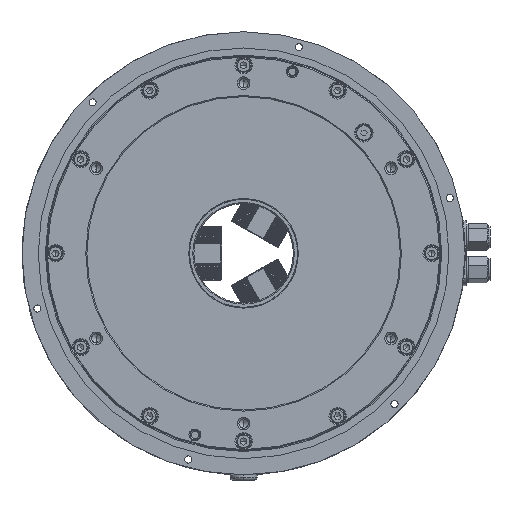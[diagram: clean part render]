
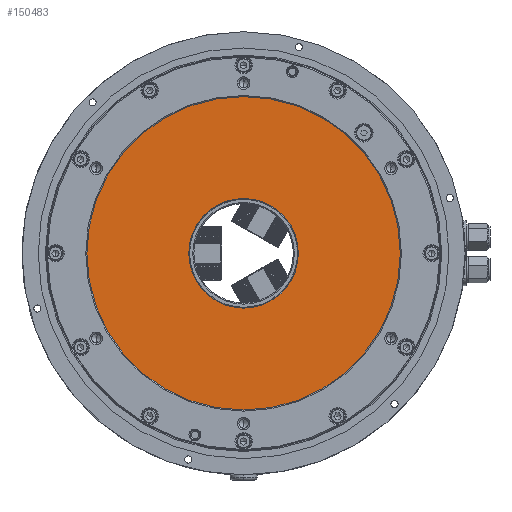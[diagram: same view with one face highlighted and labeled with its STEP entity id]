
A CAD part, left-side view. The second image highlights one B-rep face of the part: STEP entity #150483.
In plain terms, the highlighted planar face has unit normal (-1, 0, 0).
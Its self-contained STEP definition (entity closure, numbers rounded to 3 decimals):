
#1626 = CIRCLE ( 'NONE', #36420, 145. ) ;
#4254 = CARTESIAN_POINT ( 'NONE',  ( -147., 0., -145. ) ) ;
#11440 = PLANE ( 'NONE',  #146251 ) ;
#12130 = DIRECTION ( 'NONE',  ( 1., 0., 0. ) ) ;
#19863 = DIRECTION ( 'NONE',  ( 0., 0., -1. ) ) ;
#22164 = CIRCLE ( 'NONE', #123443, 50.7 ) ;
#30940 = ORIENTED_EDGE ( 'NONE', *, *, #109280, .T. ) ;
#31753 = EDGE_CURVE ( 'NONE', #38750, #93290, #75730, .T. ) ;
#33481 = DIRECTION ( 'NONE',  ( 1., 0., 0. ) ) ;
#36420 = AXIS2_PLACEMENT_3D ( 'NONE', #157588, #33481, #19863 ) ;
#38053 = CIRCLE ( 'NONE', #43880, 145. ) ;
#38750 = VERTEX_POINT ( 'NONE', #161605 ) ;
#42191 = DIRECTION ( 'NONE',  ( -1., 0., 0. ) ) ;
#43880 = AXIS2_PLACEMENT_3D ( 'NONE', #85046, #71452, #56952 ) ;
#49522 = EDGE_LOOP ( 'NONE', ( #162385, #30940 ) ) ;
#51009 = CARTESIAN_POINT ( 'NONE',  ( -147., 0., 50.7 ) ) ;
#56952 = DIRECTION ( 'NONE',  ( 0., 0., -1. ) ) ;
#70118 = DIRECTION ( 'NONE',  ( 0., 0., -1. ) ) ;
#71452 = DIRECTION ( 'NONE',  ( 1., 0., 0. ) ) ;
#74977 = ORIENTED_EDGE ( 'NONE', *, *, #120773, .F. ) ;
#75730 = CIRCLE ( 'NONE', #98829, 50.7 ) ;
#80352 = FACE_BOUND ( 'NONE', #49522, .T. ) ;
#85046 = CARTESIAN_POINT ( 'NONE',  ( -147., 0., 0. ) ) ;
#93290 = VERTEX_POINT ( 'NONE', #51009 ) ;
#97488 = DIRECTION ( 'NONE',  ( 0., 0., 1. ) ) ;
#98829 = AXIS2_PLACEMENT_3D ( 'NONE', #124480, #12130, #70118 ) ;
#102258 = CARTESIAN_POINT ( 'NONE',  ( -147., 0., 0. ) ) ;
#109280 = EDGE_CURVE ( 'NONE', #93290, #38750, #22164, .T. ) ;
#110622 = VERTEX_POINT ( 'NONE', #4254 ) ;
#120773 = EDGE_CURVE ( 'NONE', #110622, #166109, #38053, .T. ) ;
#123443 = AXIS2_PLACEMENT_3D ( 'NONE', #102258, #124560, #173773 ) ;
#124480 = CARTESIAN_POINT ( 'NONE',  ( -147., 0., 0. ) ) ;
#124560 = DIRECTION ( 'NONE',  ( 1., 0., 0. ) ) ;
#135599 = FACE_OUTER_BOUND ( 'NONE', #178770, .T. ) ;
#143563 = ORIENTED_EDGE ( 'NONE', *, *, #171081, .F. ) ;
#146251 = AXIS2_PLACEMENT_3D ( 'NONE', #166286, #42191, #97488 ) ;
#150483 = ADVANCED_FACE ( 'NONE', ( #80352, #135599 ), #11440, .T. ) ;
#157588 = CARTESIAN_POINT ( 'NONE',  ( -147., 0., 0. ) ) ;
#159986 = CARTESIAN_POINT ( 'NONE',  ( -147., 0., 145. ) ) ;
#161605 = CARTESIAN_POINT ( 'NONE',  ( -147., 0., -50.7 ) ) ;
#162385 = ORIENTED_EDGE ( 'NONE', *, *, #31753, .T. ) ;
#166109 = VERTEX_POINT ( 'NONE', #159986 ) ;
#166286 = CARTESIAN_POINT ( 'NONE',  ( -147., 145., 0. ) ) ;
#171081 = EDGE_CURVE ( 'NONE', #166109, #110622, #1626, .T. ) ;
#173773 = DIRECTION ( 'NONE',  ( 0., 0., -1. ) ) ;
#178770 = EDGE_LOOP ( 'NONE', ( #74977, #143563 ) ) ;
